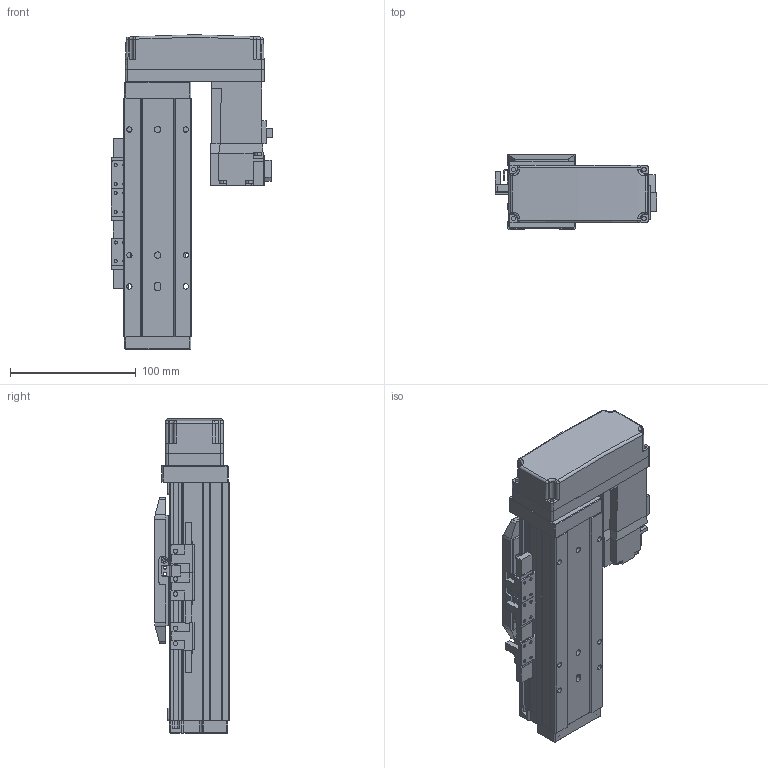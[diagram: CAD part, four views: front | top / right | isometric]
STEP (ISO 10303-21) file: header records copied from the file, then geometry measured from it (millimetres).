
FILE_DESCRIPTION (( 'STEP AP214' ), '1' );
FILE_NAME ('N_GRH5-50-BL-M10.step', '2025-03-14T09:45:09', ( '' ), ( '' ), 'SwSTEP 2.0', 'SolidWorks 2016', '' );
FILE_SCHEMA (( 'AUTOMOTIVE_DESIGN' ));
Length unit declared in the file: millimetre
Products named in the file (5): N_GRH5-GY-004^N_GRH5-50-BL-M10; N_GRH5-GY-011^N_GRH5-50-BL-M10; HF-KP13_100W_Motor^N_GRH5-50-BL-M10; N_GRH5-BL-008^N_GRH5-50-BL-M10; N_GRH5-50-BL-M10
Assembly tree (4 placements, depth 2):
  N_GRH5-50-BL-M10
    N_GRH5-GY-011^N_GRH5-50-BL-M10
    N_GRH5-GY-004^N_GRH5-50-BL-M10
    HF-KP13_100W_Motor^N_GRH5-50-BL-M10
    N_GRH5-BL-008^N_GRH5-50-BL-M10
Bounding box: 128.85 x 60 x 250.5 mm (x, y, z)
Volume: 776609 mm3; surface area: 172870.8 mm2
Topology: 4 solids, 5 shells, 884 faces, 2286 edges, 1453 vertices
Faces by surface type: plane 547, cylinder 282, cone 30, bspline 15, sphere 10
Entity records: 33911 total; most frequent: CARTESIAN_POINT 5461, DIRECTION 4539, ORIENTED_EDGE 4524, EDGE_CURVE 2262, VECTOR 1605, LINE 1605, AXIS2_PLACEMENT_3D 1467, VERTEX_POINT 1451
